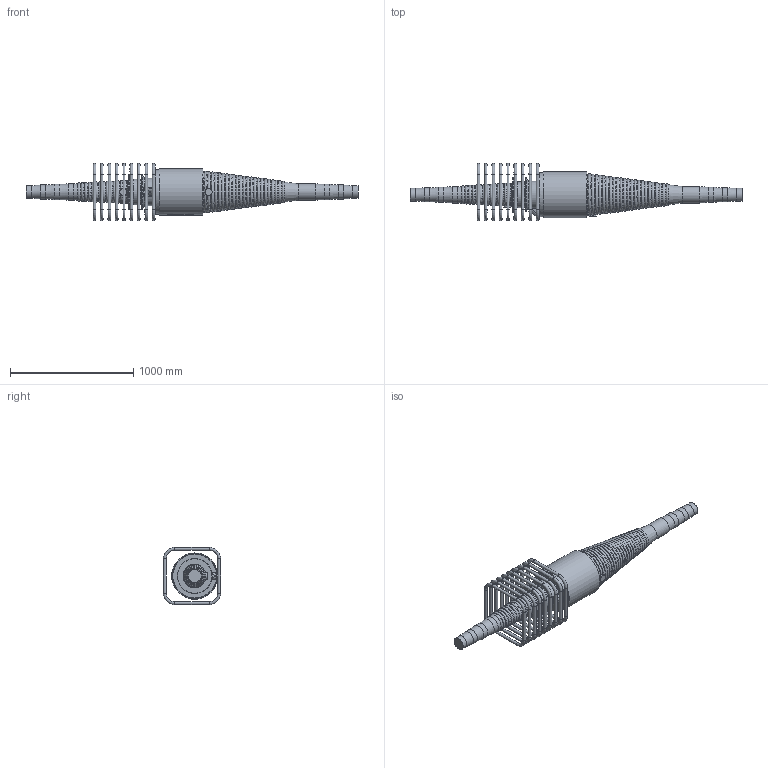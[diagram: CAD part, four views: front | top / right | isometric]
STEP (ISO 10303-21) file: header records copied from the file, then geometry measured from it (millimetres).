
FILE_DESCRIPTION(/* description */ (''),/* implementation_level */ '2;1');
FILE_NAME(/* name */ 'BBR VT CONA CMI BT 3106_Coupler H Assembly_CS-43,35_Stirrup.stp',/* time_stamp */ '2025-04-17T14:22:24+02:00',/* author */ ('tk'),/* organization */ (''),/* preprocessor_version */ 'ST-DEVELOPER v20',/* originating_system */ 'Autodesk Inventor 2024',/* authorisation */ '');
FILE_SCHEMA (('AUTOMOTIVE_DESIGN { 1 0 10303 214 3 1 1 }'));
Products named in the file (1): BBR VT CONA CMI BT 3106_Coupler H Assembly_CS-43,35_Stirrup
Bounding box: 2698.22 x 465 x 465 mm (x, y, z)
Volume: 114411072.4 mm3; surface area: 3148374 mm2
Topology: 10 solids, 10 shells, 1127 faces, 2947 edges, 1893 vertices
Faces by surface type: bspline 415, plane 358, torus 170, cylinder 133, cone 41, sphere 10
Full cylindrical faces by diameter (mm): 24 x36, 57 x1, 57.089 x1, 104 x2, 114 x2, 124 x2, 134 x2, 208 x1, 279 x1, 283 x1, 360 x1, 375 x1
Entity records: 47448 total; most frequent: CARTESIAN_POINT 20621, ORIENTED_EDGE 5882, DIRECTION 4468, EDGE_CURVE 2941, VERTEX_POINT 1893, AXIS2_PLACEMENT_3D 1656, EDGE_LOOP 1204, LINE 1156
